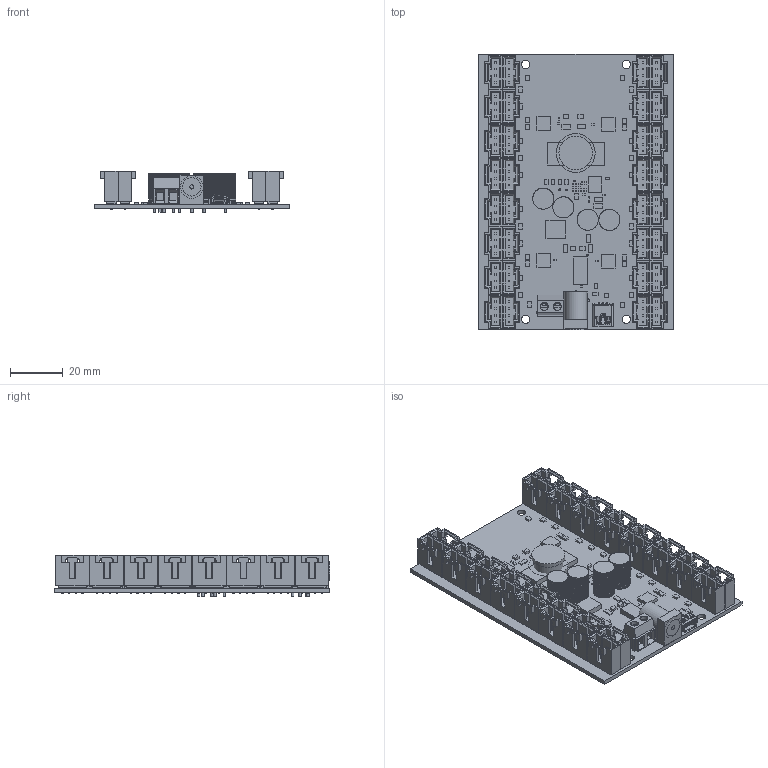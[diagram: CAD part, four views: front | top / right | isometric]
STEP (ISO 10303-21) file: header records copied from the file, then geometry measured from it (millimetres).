
FILE_DESCRIPTION(('Open CASCADE Model'),'2;1');
FILE_NAME('Open CASCADE Shape Model','2010-10-27T12:19:57',('Author'),( 'Open CASCADE'),'Open CASCADE STEP processor 6.2','Open CASCADE 6.2' ,'Unknown');
FILE_SCHEMA(('AUTOMOTIVE_DESIGN { 1 0 10303 214 1 1 1 1 }'));
Length unit declared in the file: millimetre
Products named in the file (196): PCB; Board; R1; 603645840; Extruded; C19; 603631248; C21; U3; 489467840; C8; R16; 489472832; C22; 489473600; L2; 603626384; J30; PCB2; Designator3; 705530108; Open_CASCADE_STEP_translator_6.2_145.1.1.1; Open_CASCADE_STEP_translator_6.2_145.1.1.2; 603641104; 603645584; U7; 489472064; C13; 668505440; Cylinder; 489474112; C16; 669269520; R13; 489472704; R8; R10; R2; 489473344; R3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
Assembly tree (521 placements, depth 6):
  PCB
    Board
    R1
      603645840
        Extruded
    C19
      603631248
        Extruded
    C21
      603631248
        Extruded
    U3
      489467840
        Extruded
    C8
      603631248
        Extruded
    R16
      489472832
        Extruded
    C22
      489473600
        Extruded
    L2
      603626384
        Extruded
    J30
      PCB2
        Designator3
          705530108
            Open_CASCADE_STEP_translator_6.2_145.1.1.1
            Open_CASCADE_STEP_translator_6.2_145.1.1.2
      603641104  x4
        Extruded
      603645584  x3
        Extruded
    U7
      489472064
        Extruded
    C13
      668505440  x2
        Cylinder
      489474112
        Extruded
    C16
      669269520  x2
        Cylinder
      489474112
        Extruded
    R13
      489472704
        Extruded
    R8
      603645840
        Extruded
    R10
      603645840
        Extruded
    R2
      489473344
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Bounding box: 73.66 x 104.25 x 15.53 mm (x, y, z)
Volume: 19101.6 mm3; surface area: 54051.5 mm2
Topology: 330 solids, 362 shells, 5341 faces, 13274 edges, 8770 vertices
Faces by surface type: plane 4959, cylinder 352, bspline 18, cone 10, torus 2
Full cylindrical faces by diameter (mm): 0.381 x36, 0.711 x4, 0.8 x5, 0.965 x128, 1 x11, 1.067 x10, 1.321 x1, 1.6 x3, 3.175 x4, 7 x1, 8.6 x1, 11.176 x1, 12.7 x1, 14.732 x1
Entity records: 82531 total; most frequent: CARTESIAN_POINT 18700, DIRECTION 11634, LINE 6849, VECTOR 6849, ORIENTED_EDGE 5704, PCURVE 5704, DEFINITIONAL_REPRESENTATION 5704, EDGE_CURVE 2853
